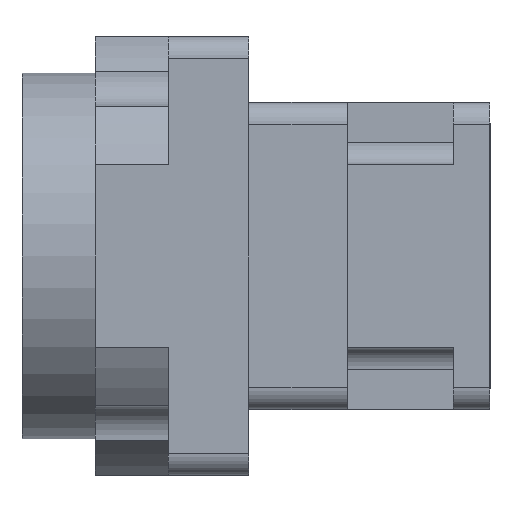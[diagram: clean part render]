
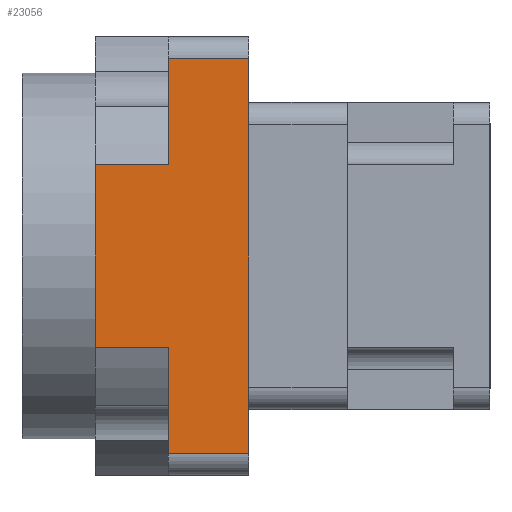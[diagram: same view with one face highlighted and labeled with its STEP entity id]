
A CAD part, left-side view. The second image highlights one B-rep face of the part: STEP entity #23056.
In plain terms, the highlighted planar face has unit normal (-1, 0, 0).
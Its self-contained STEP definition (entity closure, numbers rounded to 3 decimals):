
#6521 = PLANE('',#6522);
#6522 = AXIS2_PLACEMENT_3D('',#6523,#6524,#6525);
#6523 = CARTESIAN_POINT('',(-55.725,-13.053,68.));
#6524 = DIRECTION('',(0.,-1.,0.));
#6525 = DIRECTION('',(0.,-0.,-1.));
#6588 = PLANE('',#6589);
#6589 = AXIS2_PLACEMENT_3D('',#6590,#6591,#6592);
#6590 = CARTESIAN_POINT('',(-16.725,-2.053,68.));
#6591 = DIRECTION('',(0.,-1.,0.));
#6592 = DIRECTION('',(0.,-0.,-1.));
#7760 = PLANE('',#7761);
#7761 = AXIS2_PLACEMENT_3D('',#7762,#7763,#7764);
#7762 = CARTESIAN_POINT('',(-16.725,-2.053,68.));
#7763 = DIRECTION('',(0.,-1.,0.));
#7764 = DIRECTION('',(0.,-0.,-1.));
#8495 = PLANE('',#8496);
#8496 = AXIS2_PLACEMENT_3D('',#8497,#8498,#8499);
#8497 = CARTESIAN_POINT('',(-65.725,7.947,86.));
#8498 = DIRECTION('',(0.,1.,0.));
#8499 = DIRECTION('',(0.,-0.,1.));
#13975 = EDGE_CURVE('',#13976,#13978,#13980,.T.);
#13976 = VERTEX_POINT('',#13977);
#13977 = CARTESIAN_POINT('',(-95.725,-2.053,98.5));
#13978 = VERTEX_POINT('',#13979);
#13979 = CARTESIAN_POINT('',(-95.725,-2.053,113.));
#13980 = SURFACE_CURVE('',#13981,(#13985,#13992),.PCURVE_S1.);
#13981 = LINE('',#13982,#13983);
#13982 = CARTESIAN_POINT('',(-95.725,-2.053,59.));
#13983 = VECTOR('',#13984,1.);
#13984 = DIRECTION('',(0.,-0.,1.));
#13985 = PCURVE('',#6588,#13986);
#13986 = DEFINITIONAL_REPRESENTATION('',(#13987),#13991);
#13987 = LINE('',#13988,#13989);
#13988 = CARTESIAN_POINT('',(9.,-79.));
#13989 = VECTOR('',#13990,1.);
#13990 = DIRECTION('',(-1.,0.));
#13991 = ( GEOMETRIC_REPRESENTATION_CONTEXT(2) 
PARAMETRIC_REPRESENTATION_CONTEXT() REPRESENTATION_CONTEXT('2D SPACE',''
  ) );
#13992 = PCURVE('',#13993,#13998);
#13993 = PLANE('',#13994);
#13994 = AXIS2_PLACEMENT_3D('',#13995,#13996,#13997);
#13995 = CARTESIAN_POINT('',(-95.725,-2.053,59.));
#13996 = DIRECTION('',(1.,0.,0.));
#13997 = DIRECTION('',(0.,0.,-1.));
#13998 = DEFINITIONAL_REPRESENTATION('',(#13999),#14003);
#13999 = LINE('',#14000,#14001);
#14000 = CARTESIAN_POINT('',(0.,0.));
#14001 = VECTOR('',#14002,1.);
#14002 = DIRECTION('',(-1.,0.));
#14003 = ( GEOMETRIC_REPRESENTATION_CONTEXT(2) 
PARAMETRIC_REPRESENTATION_CONTEXT() REPRESENTATION_CONTEXT('2D SPACE',''
  ) );
#14022 = CYLINDRICAL_SURFACE('',#14023,3.);
#14023 = AXIS2_PLACEMENT_3D('',#14024,#14025,#14026);
#14024 = CARTESIAN_POINT('',(-92.725,-2.053,113.));
#14025 = DIRECTION('',(-0.,-1.,-0.));
#14026 = DIRECTION('',(0.,0.,-1.));
#14127 = CYLINDRICAL_SURFACE('',#14128,32.5);
#14128 = AXIS2_PLACEMENT_3D('',#14129,#14130,#14131);
#14129 = CARTESIAN_POINT('',(-65.725,7.947,86.));
#14130 = DIRECTION('',(-0.,-1.,-0.));
#14131 = DIRECTION('',(0.,0.,-1.));
#18804 = CYLINDRICAL_SURFACE('',#18805,32.5);
#18805 = AXIS2_PLACEMENT_3D('',#18806,#18807,#18808);
#18806 = CARTESIAN_POINT('',(-65.725,7.947,86.));
#18807 = DIRECTION('',(-0.,-1.,-0.));
#18808 = DIRECTION('',(0.,0.,-1.));
#21019 = VERTEX_POINT('',#21020);
#21020 = CARTESIAN_POINT('',(-95.725,-2.053,59.));
#21035 = CYLINDRICAL_SURFACE('',#21036,3.);
#21036 = AXIS2_PLACEMENT_3D('',#21037,#21038,#21039);
#21037 = CARTESIAN_POINT('',(-92.725,-2.053,59.));
#21038 = DIRECTION('',(-0.,-1.,-0.));
#21039 = DIRECTION('',(0.,0.,-1.));
#21047 = EDGE_CURVE('',#21019,#21048,#21050,.T.);
#21048 = VERTEX_POINT('',#21049);
#21049 = CARTESIAN_POINT('',(-95.725,-2.053,73.5));
#21050 = SURFACE_CURVE('',#21051,(#21055,#21062),.PCURVE_S1.);
#21051 = LINE('',#21052,#21053);
#21052 = CARTESIAN_POINT('',(-95.725,-2.053,59.));
#21053 = VECTOR('',#21054,1.);
#21054 = DIRECTION('',(0.,-0.,1.));
#21055 = PCURVE('',#7760,#21056);
#21056 = DEFINITIONAL_REPRESENTATION('',(#21057),#21061);
#21057 = LINE('',#21058,#21059);
#21058 = CARTESIAN_POINT('',(9.,-79.));
#21059 = VECTOR('',#21060,1.);
#21060 = DIRECTION('',(-1.,0.));
#21061 = ( GEOMETRIC_REPRESENTATION_CONTEXT(2) 
PARAMETRIC_REPRESENTATION_CONTEXT() REPRESENTATION_CONTEXT('2D SPACE',''
  ) );
#21062 = PCURVE('',#13993,#21063);
#21063 = DEFINITIONAL_REPRESENTATION('',(#21064),#21068);
#21064 = LINE('',#21065,#21066);
#21065 = CARTESIAN_POINT('',(0.,0.));
#21066 = VECTOR('',#21067,1.);
#21067 = DIRECTION('',(-1.,0.));
#21068 = ( GEOMETRIC_REPRESENTATION_CONTEXT(2) 
PARAMETRIC_REPRESENTATION_CONTEXT() REPRESENTATION_CONTEXT('2D SPACE',''
  ) );
#21126 = EDGE_CURVE('',#21048,#21127,#21129,.T.);
#21127 = VERTEX_POINT('',#21128);
#21128 = CARTESIAN_POINT('',(-95.725,7.947,73.5));
#21129 = SURFACE_CURVE('',#21130,(#21134,#21141),.PCURVE_S1.);
#21130 = LINE('',#21131,#21132);
#21131 = CARTESIAN_POINT('',(-95.725,-2.053,73.5));
#21132 = VECTOR('',#21133,1.);
#21133 = DIRECTION('',(0.,1.,0.));
#21134 = PCURVE('',#18804,#21135);
#21135 = DEFINITIONAL_REPRESENTATION('',(#21136),#21140);
#21136 = LINE('',#21137,#21138);
#21137 = CARTESIAN_POINT('',(5.107,10.));
#21138 = VECTOR('',#21139,1.);
#21139 = DIRECTION('',(0.,-1.));
#21140 = ( GEOMETRIC_REPRESENTATION_CONTEXT(2) 
PARAMETRIC_REPRESENTATION_CONTEXT() REPRESENTATION_CONTEXT('2D SPACE',''
  ) );
#21141 = PCURVE('',#13993,#21142);
#21142 = DEFINITIONAL_REPRESENTATION('',(#21143),#21147);
#21143 = LINE('',#21144,#21145);
#21144 = CARTESIAN_POINT('',(-14.5,0.));
#21145 = VECTOR('',#21146,1.);
#21146 = DIRECTION('',(0.,1.));
#21147 = ( GEOMETRIC_REPRESENTATION_CONTEXT(2) 
PARAMETRIC_REPRESENTATION_CONTEXT() REPRESENTATION_CONTEXT('2D SPACE',''
  ) );
#21205 = EDGE_CURVE('',#21127,#21206,#21208,.T.);
#21206 = VERTEX_POINT('',#21207);
#21207 = CARTESIAN_POINT('',(-95.725,7.947,98.5));
#21208 = SURFACE_CURVE('',#21209,(#21213,#21220),.PCURVE_S1.);
#21209 = LINE('',#21210,#21211);
#21210 = CARTESIAN_POINT('',(-95.725,7.947,59.));
#21211 = VECTOR('',#21212,1.);
#21212 = DIRECTION('',(0.,-0.,1.));
#21213 = PCURVE('',#8495,#21214);
#21214 = DEFINITIONAL_REPRESENTATION('',(#21215),#21219);
#21215 = LINE('',#21216,#21217);
#21216 = CARTESIAN_POINT('',(-27.,-30.));
#21217 = VECTOR('',#21218,1.);
#21218 = DIRECTION('',(1.,0.));
#21219 = ( GEOMETRIC_REPRESENTATION_CONTEXT(2) 
PARAMETRIC_REPRESENTATION_CONTEXT() REPRESENTATION_CONTEXT('2D SPACE',''
  ) );
#21220 = PCURVE('',#13993,#21221);
#21221 = DEFINITIONAL_REPRESENTATION('',(#21222),#21226);
#21222 = LINE('',#21223,#21224);
#21223 = CARTESIAN_POINT('',(0.,10.));
#21224 = VECTOR('',#21225,1.);
#21225 = DIRECTION('',(-1.,0.));
#21226 = ( GEOMETRIC_REPRESENTATION_CONTEXT(2) 
PARAMETRIC_REPRESENTATION_CONTEXT() REPRESENTATION_CONTEXT('2D SPACE',''
  ) );
#21286 = EDGE_CURVE('',#21206,#13976,#21287,.T.);
#21287 = SURFACE_CURVE('',#21288,(#21292,#21299),.PCURVE_S1.);
#21288 = LINE('',#21289,#21290);
#21289 = CARTESIAN_POINT('',(-95.725,-2.053,98.5));
#21290 = VECTOR('',#21291,1.);
#21291 = DIRECTION('',(-0.,-1.,-0.));
#21292 = PCURVE('',#14127,#21293);
#21293 = DEFINITIONAL_REPRESENTATION('',(#21294),#21298);
#21294 = LINE('',#21295,#21296);
#21295 = CARTESIAN_POINT('',(4.318,10.));
#21296 = VECTOR('',#21297,1.);
#21297 = DIRECTION('',(0.,1.));
#21298 = ( GEOMETRIC_REPRESENTATION_CONTEXT(2) 
PARAMETRIC_REPRESENTATION_CONTEXT() REPRESENTATION_CONTEXT('2D SPACE',''
  ) );
#21299 = PCURVE('',#13993,#21300);
#21300 = DEFINITIONAL_REPRESENTATION('',(#21301),#21305);
#21301 = LINE('',#21302,#21303);
#21302 = CARTESIAN_POINT('',(-39.5,0.));
#21303 = VECTOR('',#21304,1.);
#21304 = DIRECTION('',(0.,-1.));
#21305 = ( GEOMETRIC_REPRESENTATION_CONTEXT(2) 
PARAMETRIC_REPRESENTATION_CONTEXT() REPRESENTATION_CONTEXT('2D SPACE',''
  ) );
#22304 = VERTEX_POINT('',#22305);
#22305 = CARTESIAN_POINT('',(-95.725,-13.053,59.));
#22327 = EDGE_CURVE('',#22304,#21019,#22328,.T.);
#22328 = SURFACE_CURVE('',#22329,(#22333,#22340),.PCURVE_S1.);
#22329 = LINE('',#22330,#22331);
#22330 = CARTESIAN_POINT('',(-95.725,-2.053,59.));
#22331 = VECTOR('',#22332,1.);
#22332 = DIRECTION('',(0.,1.,0.));
#22333 = PCURVE('',#21035,#22334);
#22334 = DEFINITIONAL_REPRESENTATION('',(#22335),#22339);
#22335 = LINE('',#22336,#22337);
#22336 = CARTESIAN_POINT('',(4.712,0.));
#22337 = VECTOR('',#22338,1.);
#22338 = DIRECTION('',(0.,-1.));
#22339 = ( GEOMETRIC_REPRESENTATION_CONTEXT(2) 
PARAMETRIC_REPRESENTATION_CONTEXT() REPRESENTATION_CONTEXT('2D SPACE',''
  ) );
#22340 = PCURVE('',#13993,#22341);
#22341 = DEFINITIONAL_REPRESENTATION('',(#22342),#22346);
#22342 = LINE('',#22343,#22344);
#22343 = CARTESIAN_POINT('',(0.,0.));
#22344 = VECTOR('',#22345,1.);
#22345 = DIRECTION('',(0.,1.));
#22346 = ( GEOMETRIC_REPRESENTATION_CONTEXT(2) 
PARAMETRIC_REPRESENTATION_CONTEXT() REPRESENTATION_CONTEXT('2D SPACE',''
  ) );
#23011 = EDGE_CURVE('',#13978,#23012,#23014,.T.);
#23012 = VERTEX_POINT('',#23013);
#23013 = CARTESIAN_POINT('',(-95.725,-13.053,113.));
#23014 = SURFACE_CURVE('',#23015,(#23019,#23026),.PCURVE_S1.);
#23015 = LINE('',#23016,#23017);
#23016 = CARTESIAN_POINT('',(-95.725,-2.053,113.));
#23017 = VECTOR('',#23018,1.);
#23018 = DIRECTION('',(-0.,-1.,-0.));
#23019 = PCURVE('',#14022,#23020);
#23020 = DEFINITIONAL_REPRESENTATION('',(#23021),#23025);
#23021 = LINE('',#23022,#23023);
#23022 = CARTESIAN_POINT('',(4.712,0.));
#23023 = VECTOR('',#23024,1.);
#23024 = DIRECTION('',(0.,1.));
#23025 = ( GEOMETRIC_REPRESENTATION_CONTEXT(2) 
PARAMETRIC_REPRESENTATION_CONTEXT() REPRESENTATION_CONTEXT('2D SPACE',''
  ) );
#23026 = PCURVE('',#13993,#23027);
#23027 = DEFINITIONAL_REPRESENTATION('',(#23028),#23032);
#23028 = LINE('',#23029,#23030);
#23029 = CARTESIAN_POINT('',(-54.,0.));
#23030 = VECTOR('',#23031,1.);
#23031 = DIRECTION('',(0.,-1.));
#23032 = ( GEOMETRIC_REPRESENTATION_CONTEXT(2) 
PARAMETRIC_REPRESENTATION_CONTEXT() REPRESENTATION_CONTEXT('2D SPACE',''
  ) );
#23056 = ADVANCED_FACE('',(#23057),#13993,.F.);
#23057 = FACE_BOUND('',#23058,.T.);
#23058 = EDGE_LOOP('',(#23059,#23060,#23061,#23062,#23063,#23064,#23085,
    #23086));
#23059 = ORIENTED_EDGE('',*,*,#21286,.F.);
#23060 = ORIENTED_EDGE('',*,*,#21205,.F.);
#23061 = ORIENTED_EDGE('',*,*,#21126,.F.);
#23062 = ORIENTED_EDGE('',*,*,#21047,.F.);
#23063 = ORIENTED_EDGE('',*,*,#22327,.F.);
#23064 = ORIENTED_EDGE('',*,*,#23065,.F.);
#23065 = EDGE_CURVE('',#23012,#22304,#23066,.T.);
#23066 = SURFACE_CURVE('',#23067,(#23071,#23078),.PCURVE_S1.);
#23067 = LINE('',#23068,#23069);
#23068 = CARTESIAN_POINT('',(-95.725,-13.053,68.));
#23069 = VECTOR('',#23070,1.);
#23070 = DIRECTION('',(0.,-0.,-1.));
#23071 = PCURVE('',#13993,#23072);
#23072 = DEFINITIONAL_REPRESENTATION('',(#23073),#23077);
#23073 = LINE('',#23074,#23075);
#23074 = CARTESIAN_POINT('',(-9.,-11.));
#23075 = VECTOR('',#23076,1.);
#23076 = DIRECTION('',(1.,-0.));
#23077 = ( GEOMETRIC_REPRESENTATION_CONTEXT(2) 
PARAMETRIC_REPRESENTATION_CONTEXT() REPRESENTATION_CONTEXT('2D SPACE',''
  ) );
#23078 = PCURVE('',#6521,#23079);
#23079 = DEFINITIONAL_REPRESENTATION('',(#23080),#23084);
#23080 = LINE('',#23081,#23082);
#23081 = CARTESIAN_POINT('',(-0.,-40.));
#23082 = VECTOR('',#23083,1.);
#23083 = DIRECTION('',(1.,0.));
#23084 = ( GEOMETRIC_REPRESENTATION_CONTEXT(2) 
PARAMETRIC_REPRESENTATION_CONTEXT() REPRESENTATION_CONTEXT('2D SPACE',''
  ) );
#23085 = ORIENTED_EDGE('',*,*,#23011,.F.);
#23086 = ORIENTED_EDGE('',*,*,#13975,.F.);
